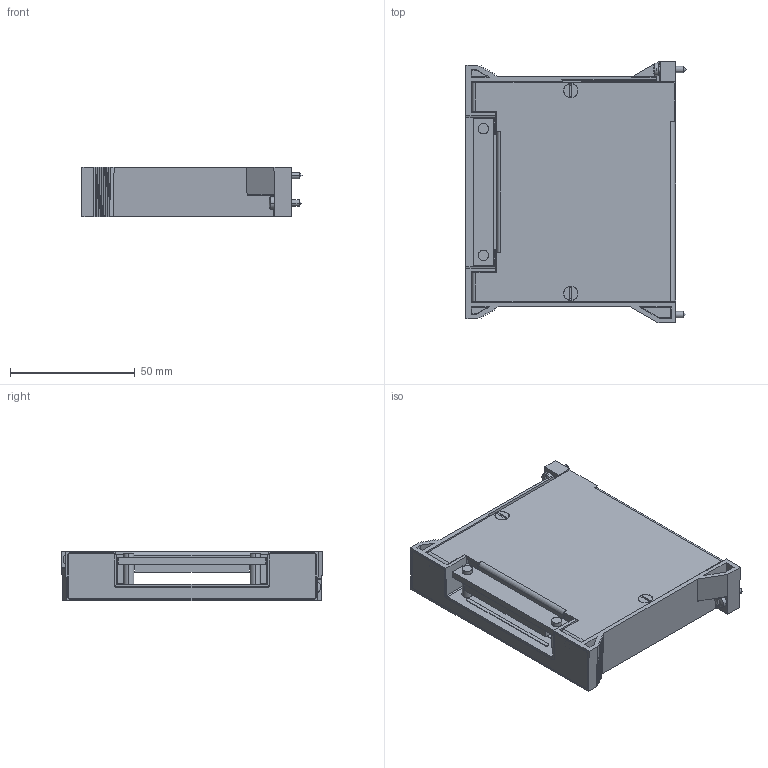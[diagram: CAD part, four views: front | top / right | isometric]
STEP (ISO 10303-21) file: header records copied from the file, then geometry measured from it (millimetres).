
FILE_DESCRIPTION((''),'2;1');
FILE_NAME('CU_PXI_TB_PL_INV','2007-09-12T',('chrisj'),(''),'PRO/ENGINEER BY PARAMETRIC TECHNOLOGY CORPORATION, 2006300','PRO/ENGINEER BY PARAMETRIC TECHNOLOGY CORPORATION, 2006300','');
FILE_SCHEMA(('AUTOMOTIVE_DESIGN_CC2 { 1 2 10303 214 -1 1 5 2 }'));
Length unit declared in the file: inch
Products named in the file (1): CU_PXI_TB_PL_INV
Bounding box: 88.3 x 104.78 x 20.02 mm (x, y, z)
Volume: 39499.1 mm3; surface area: 47870.9 mm2
Topology: 4 solids, 4 shells, 738 faces, 1880 edges, 1129 vertices
Faces by surface type: plane 449, cylinder 142, bspline 60, cone 52, sphere 27, torus 8
Entity records: 23556 total; most frequent: CARTESIAN_POINT 6274, ORIENTED_EDGE 3632, DIRECTION 3363, EDGE_CURVE 1816, VECTOR 1237, LINE 1237, VERTEX_POINT 1186, AXIS2_PLACEMENT_3D 1063
